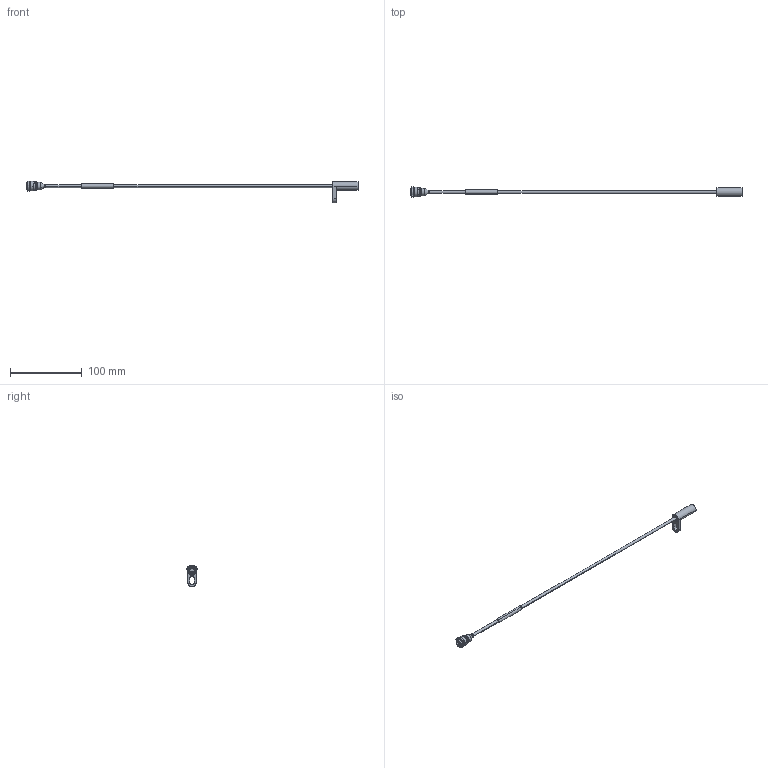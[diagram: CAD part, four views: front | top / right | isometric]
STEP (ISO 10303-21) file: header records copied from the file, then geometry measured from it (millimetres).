
FILE_DESCRIPTION(('CATIA V5 STEP Exchange'),'2;1');
FILE_NAME('\\bosch.com\dfsrb\DfsDE\DIV\BEG\MSD\Gruppen\MSDP\01_Austausch\!Limitierte Beschäftigte\Praktikanten\HnA\3D Modelle Katalog\Neu\Sensoren\Drehzahl\HA-D_90.stp','2014-01-20T10:26:33+00:00',('none'),('none'),'CATIA Version 5 Release 19 SP 9 (IN-10)','CATIA V5 STEP AP214','none');
FILE_SCHEMA(('AUTOMOTIVE_DESIGN { 1 0 10303 214 1 1 1 1 }'));
Length unit declared in the file: millimetre
Products named in the file (1): HA-D_90
Bounding box: 462.42 x 14.59 x 30 mm (x, y, z)
Volume: 12210.1 mm3; surface area: 9703.2 mm2
Topology: 1 solids, 1 shells, 180 faces, 454 edges, 289 vertices
Faces by surface type: cylinder 94, plane 65, sphere 10, revolution 4, cone 4, torus 3
Entity records: 6271 total; most frequent: CARTESIAN_POINT 936, ORIENTED_EDGE 888, DIRECTION 666, EDGE_CURVE 444, AXIS2_PLACEMENT_3D 333, VERTEX_POINT 289, CIRCLE 218, VECTOR 216
